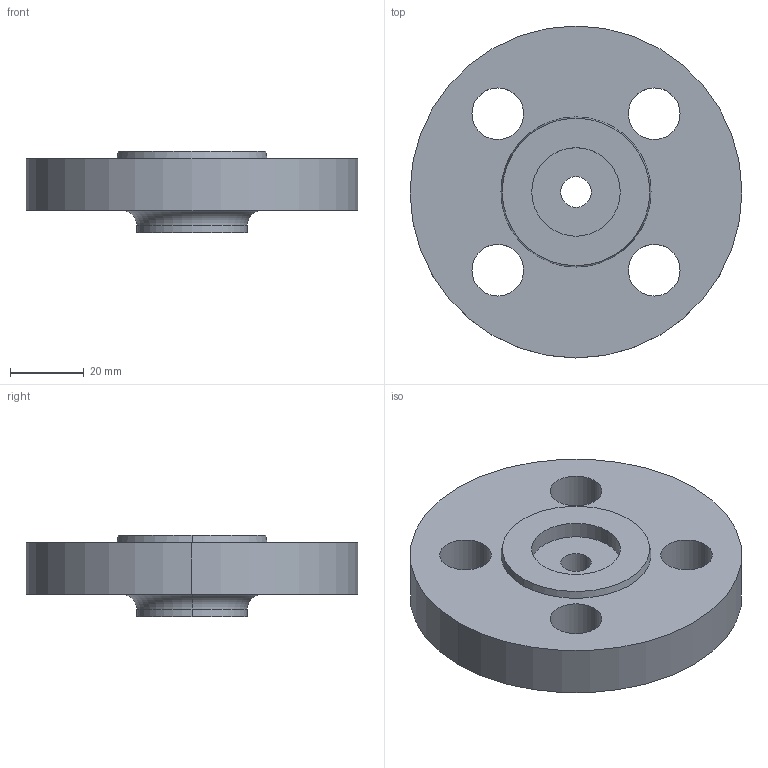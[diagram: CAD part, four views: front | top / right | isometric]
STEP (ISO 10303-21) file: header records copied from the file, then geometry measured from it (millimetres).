
FILE_DESCRIPTION (( 'STEP AP214' ), '1' );
FILE_NAME ('PN40 DN10 Type 13 - Type G Face.STEP', '2018-12-29T03:57:17', ( '' ), ( '' ), 'SwSTEP 2.0', 'SolidWorks 2019', '' );
FILE_SCHEMA (( 'AUTOMOTIVE_DESIGN' ));
Length unit declared in the file: millimetre
Products named in the file (1): PN40 DN10 Type 13 - Type G Face
Bounding box: 90 x 90 x 22 mm (x, y, z)
Volume: 84585.5 mm3; surface area: 19226.5 mm2
Topology: 1 solids, 1 shells, 25 faces, 58 edges, 38 vertices
Faces by surface type: cylinder 16, plane 5, torus 2, cone 2
Entity records: 790 total; most frequent: DIRECTION 150, CARTESIAN_POINT 122, ORIENTED_EDGE 116, AXIS2_PLACEMENT_3D 66, EDGE_CURVE 58, CIRCLE 40, VERTEX_POINT 38, EDGE_LOOP 38
